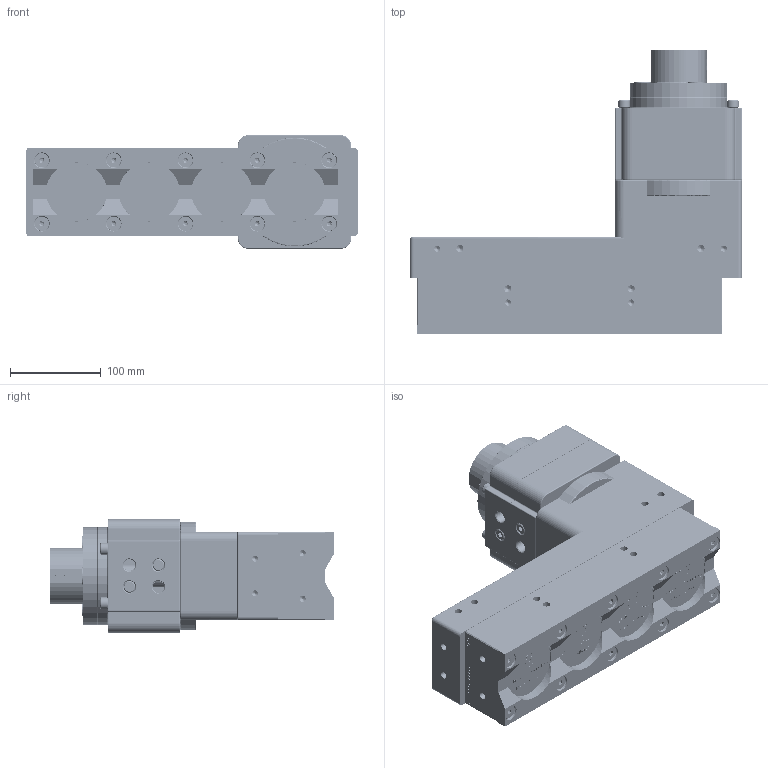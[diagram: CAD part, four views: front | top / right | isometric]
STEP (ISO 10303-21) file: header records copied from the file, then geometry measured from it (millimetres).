
FILE_DESCRIPTION (( 'STEP AP203' ), '1' );
FILE_NAME ('81401736_CFM.STEP', '2026-02-20T21:36:33', ( '' ), ( '' ), 'SwSTEP 2.0', 'SolidWorks 2024', '' );
FILE_SCHEMA (( 'CONFIG_CONTROL_DESIGN' ));
Products named in the file (1): 81401736_CFM
Bounding box: 366.27 x 314 x 125 mm (x, y, z)
Volume: 5797595.1 mm3; surface area: 715949.5 mm2
Topology: 68 solids, 68 shells, 7527 faces, 19128 edges, 12090 vertices
Faces by surface type: cylinder 2550, plane 2382, bspline 1372, cone 1088, torus 125, sphere 10
Entity records: 358370 total; most frequent: CARTESIAN_POINT 194180, ORIENTED_EDGE 38062, DIRECTION 28139, EDGE_CURVE 19031, VERTEX_POINT 12083, LINE 9739, VECTOR 9739, AXIS2_PLACEMENT_3D 9200
